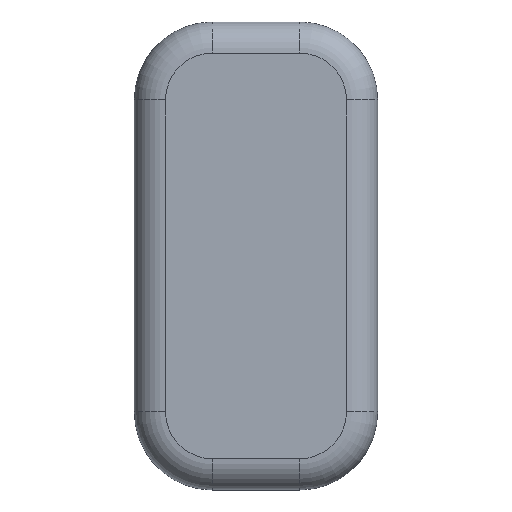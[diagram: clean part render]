
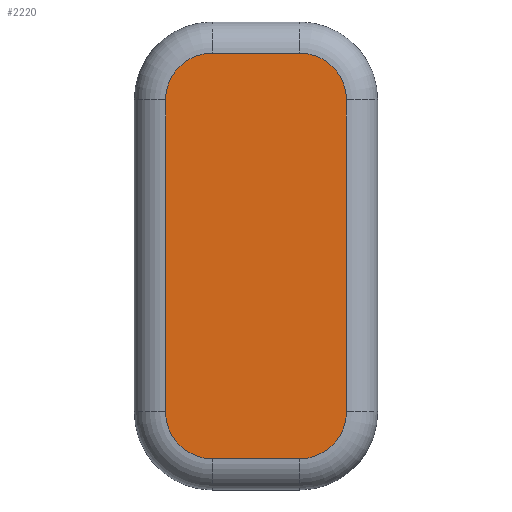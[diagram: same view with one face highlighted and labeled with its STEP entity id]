
A CAD part, top view. The second image highlights one B-rep face of the part: STEP entity #2220.
In plain terms, the highlighted planar face has unit normal (0, 0, 1).
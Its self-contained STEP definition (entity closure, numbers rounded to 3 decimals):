
#1301 = TOROIDAL_SURFACE('',#1302,15.,10.005);
#1302 = AXIS2_PLACEMENT_3D('',#1303,#1304,#1305);
#1303 = CARTESIAN_POINT('',(-14.,-50.,-10.));
#1304 = DIRECTION('',(0.,0.,1.));
#1305 = DIRECTION('',(-1.,0.,0.));
#1355 = CYLINDRICAL_SURFACE('',#1356,10.005);
#1356 = AXIS2_PLACEMENT_3D('',#1357,#1358,#1359);
#1357 = CARTESIAN_POINT('',(-14.,-65.,-10.));
#1358 = DIRECTION('',(1.,0.,0.));
#1359 = DIRECTION('',(0.,-1.,-0.));
#1410 = TOROIDAL_SURFACE('',#1411,15.,10.005);
#1411 = AXIS2_PLACEMENT_3D('',#1412,#1413,#1414);
#1412 = CARTESIAN_POINT('',(14.,-50.,-10.));
#1413 = DIRECTION('',(0.,0.,1.));
#1414 = DIRECTION('',(0.,-1.,0.));
#1464 = CYLINDRICAL_SURFACE('',#1465,10.005);
#1465 = AXIS2_PLACEMENT_3D('',#1466,#1467,#1468);
#1466 = CARTESIAN_POINT('',(29.,-50.,-10.));
#1467 = DIRECTION('',(0.,1.,0.));
#1468 = DIRECTION('',(1.,0.,-0.));
#1519 = TOROIDAL_SURFACE('',#1520,15.,10.005);
#1520 = AXIS2_PLACEMENT_3D('',#1521,#1522,#1523);
#1521 = CARTESIAN_POINT('',(14.,50.,-10.));
#1522 = DIRECTION('',(0.,0.,1.));
#1523 = DIRECTION('',(1.,0.,-0.));
#1593 = CYLINDRICAL_SURFACE('',#1594,10.005);
#1594 = AXIS2_PLACEMENT_3D('',#1595,#1596,#1597);
#1595 = CARTESIAN_POINT('',(14.,65.,-10.));
#1596 = DIRECTION('',(-1.,-0.,-0.));
#1597 = DIRECTION('',(-0.,1.,0.));
#1628 = TOROIDAL_SURFACE('',#1629,15.,10.005);
#1629 = AXIS2_PLACEMENT_3D('',#1630,#1631,#1632);
#1630 = CARTESIAN_POINT('',(-14.,50.,-10.));
#1631 = DIRECTION('',(0.,0.,1.));
#1632 = DIRECTION('',(0.,1.,-0.));
#1680 = CYLINDRICAL_SURFACE('',#1681,10.005);
#1681 = AXIS2_PLACEMENT_3D('',#1682,#1683,#1684);
#1682 = CARTESIAN_POINT('',(-29.,50.,-10.));
#1683 = DIRECTION('',(-0.,-1.,-0.));
#1684 = DIRECTION('',(-1.,0.,0.));
#1816 = VERTEX_POINT('',#1817);
#1817 = CARTESIAN_POINT('',(-29.,-50.,0.005));
#1841 = VERTEX_POINT('',#1842);
#1842 = CARTESIAN_POINT('',(-14.,-65.,0.005));
#1864 = EDGE_CURVE('',#1816,#1841,#1865,.T.);
#1865 = SURFACE_CURVE('',#1866,(#1871,#1878),.PCURVE_S1.);
#1866 = CIRCLE('',#1867,15.);
#1867 = AXIS2_PLACEMENT_3D('',#1868,#1869,#1870);
#1868 = CARTESIAN_POINT('',(-14.,-50.,0.005));
#1869 = DIRECTION('',(0.,0.,1.));
#1870 = DIRECTION('',(-1.,0.,0.));
#1871 = PCURVE('',#1301,#1872);
#1872 = DEFINITIONAL_REPRESENTATION('',(#1873),#1877);
#1873 = LINE('',#1874,#1875);
#1874 = CARTESIAN_POINT('',(0.,1.571));
#1875 = VECTOR('',#1876,1.);
#1876 = DIRECTION('',(1.,0.));
#1877 = ( GEOMETRIC_REPRESENTATION_CONTEXT(2) 
PARAMETRIC_REPRESENTATION_CONTEXT() REPRESENTATION_CONTEXT('2D SPACE',''
  ) );
#1878 = PCURVE('',#1879,#1884);
#1879 = PLANE('',#1880);
#1880 = AXIS2_PLACEMENT_3D('',#1881,#1882,#1883);
#1881 = CARTESIAN_POINT('',(0.,0.,0.005));
#1882 = DIRECTION('',(0.,0.,1.));
#1883 = DIRECTION('',(1.,0.,0.));
#1884 = DEFINITIONAL_REPRESENTATION('',(#1885),#1889);
#1885 = CIRCLE('',#1886,15.);
#1886 = AXIS2_PLACEMENT_2D('',#1887,#1888);
#1887 = CARTESIAN_POINT('',(-14.,-50.));
#1888 = DIRECTION('',(-1.,0.));
#1889 = ( GEOMETRIC_REPRESENTATION_CONTEXT(2) 
PARAMETRIC_REPRESENTATION_CONTEXT() REPRESENTATION_CONTEXT('2D SPACE',''
  ) );
#1895 = EDGE_CURVE('',#1841,#1896,#1898,.T.);
#1896 = VERTEX_POINT('',#1897);
#1897 = CARTESIAN_POINT('',(14.,-65.,0.005));
#1898 = SURFACE_CURVE('',#1899,(#1903,#1910),.PCURVE_S1.);
#1899 = LINE('',#1900,#1901);
#1900 = CARTESIAN_POINT('',(-14.,-65.,0.005));
#1901 = VECTOR('',#1902,1.);
#1902 = DIRECTION('',(1.,0.,0.));
#1903 = PCURVE('',#1355,#1904);
#1904 = DEFINITIONAL_REPRESENTATION('',(#1905),#1909);
#1905 = LINE('',#1906,#1907);
#1906 = CARTESIAN_POINT('',(-1.571,0.));
#1907 = VECTOR('',#1908,1.);
#1908 = DIRECTION('',(-0.,1.));
#1909 = ( GEOMETRIC_REPRESENTATION_CONTEXT(2) 
PARAMETRIC_REPRESENTATION_CONTEXT() REPRESENTATION_CONTEXT('2D SPACE',''
  ) );
#1910 = PCURVE('',#1879,#1911);
#1911 = DEFINITIONAL_REPRESENTATION('',(#1912),#1916);
#1912 = LINE('',#1913,#1914);
#1913 = CARTESIAN_POINT('',(-14.,-65.));
#1914 = VECTOR('',#1915,1.);
#1915 = DIRECTION('',(1.,0.));
#1916 = ( GEOMETRIC_REPRESENTATION_CONTEXT(2) 
PARAMETRIC_REPRESENTATION_CONTEXT() REPRESENTATION_CONTEXT('2D SPACE',''
  ) );
#1947 = VERTEX_POINT('',#1948);
#1948 = CARTESIAN_POINT('',(29.,-50.,0.005));
#1970 = EDGE_CURVE('',#1896,#1947,#1971,.T.);
#1971 = SURFACE_CURVE('',#1972,(#1977,#1984),.PCURVE_S1.);
#1972 = CIRCLE('',#1973,15.);
#1973 = AXIS2_PLACEMENT_3D('',#1974,#1975,#1976);
#1974 = CARTESIAN_POINT('',(14.,-50.,0.005));
#1975 = DIRECTION('',(0.,0.,1.));
#1976 = DIRECTION('',(0.,-1.,0.));
#1977 = PCURVE('',#1410,#1978);
#1978 = DEFINITIONAL_REPRESENTATION('',(#1979),#1983);
#1979 = LINE('',#1980,#1981);
#1980 = CARTESIAN_POINT('',(0.,1.571));
#1981 = VECTOR('',#1982,1.);
#1982 = DIRECTION('',(1.,0.));
#1983 = ( GEOMETRIC_REPRESENTATION_CONTEXT(2) 
PARAMETRIC_REPRESENTATION_CONTEXT() REPRESENTATION_CONTEXT('2D SPACE',''
  ) );
#1984 = PCURVE('',#1879,#1985);
#1985 = DEFINITIONAL_REPRESENTATION('',(#1986),#1990);
#1986 = CIRCLE('',#1987,15.);
#1987 = AXIS2_PLACEMENT_2D('',#1988,#1989);
#1988 = CARTESIAN_POINT('',(14.,-50.));
#1989 = DIRECTION('',(0.,-1.));
#1990 = ( GEOMETRIC_REPRESENTATION_CONTEXT(2) 
PARAMETRIC_REPRESENTATION_CONTEXT() REPRESENTATION_CONTEXT('2D SPACE',''
  ) );
#1996 = EDGE_CURVE('',#1947,#1997,#1999,.T.);
#1997 = VERTEX_POINT('',#1998);
#1998 = CARTESIAN_POINT('',(29.,50.,0.005));
#1999 = SURFACE_CURVE('',#2000,(#2004,#2011),.PCURVE_S1.);
#2000 = LINE('',#2001,#2002);
#2001 = CARTESIAN_POINT('',(29.,-50.,0.005));
#2002 = VECTOR('',#2003,1.);
#2003 = DIRECTION('',(0.,1.,0.));
#2004 = PCURVE('',#1464,#2005);
#2005 = DEFINITIONAL_REPRESENTATION('',(#2006),#2010);
#2006 = LINE('',#2007,#2008);
#2007 = CARTESIAN_POINT('',(-1.571,0.));
#2008 = VECTOR('',#2009,1.);
#2009 = DIRECTION('',(-0.,1.));
#2010 = ( GEOMETRIC_REPRESENTATION_CONTEXT(2) 
PARAMETRIC_REPRESENTATION_CONTEXT() REPRESENTATION_CONTEXT('2D SPACE',''
  ) );
#2011 = PCURVE('',#1879,#2012);
#2012 = DEFINITIONAL_REPRESENTATION('',(#2013),#2017);
#2013 = LINE('',#2014,#2015);
#2014 = CARTESIAN_POINT('',(29.,-50.));
#2015 = VECTOR('',#2016,1.);
#2016 = DIRECTION('',(0.,1.));
#2017 = ( GEOMETRIC_REPRESENTATION_CONTEXT(2) 
PARAMETRIC_REPRESENTATION_CONTEXT() REPRESENTATION_CONTEXT('2D SPACE',''
  ) );
#2048 = VERTEX_POINT('',#2049);
#2049 = CARTESIAN_POINT('',(14.,65.,0.005));
#2071 = EDGE_CURVE('',#1997,#2048,#2072,.T.);
#2072 = SURFACE_CURVE('',#2073,(#2078,#2085),.PCURVE_S1.);
#2073 = CIRCLE('',#2074,15.);
#2074 = AXIS2_PLACEMENT_3D('',#2075,#2076,#2077);
#2075 = CARTESIAN_POINT('',(14.,50.,0.005));
#2076 = DIRECTION('',(0.,0.,1.));
#2077 = DIRECTION('',(1.,0.,-0.));
#2078 = PCURVE('',#1519,#2079);
#2079 = DEFINITIONAL_REPRESENTATION('',(#2080),#2084);
#2080 = LINE('',#2081,#2082);
#2081 = CARTESIAN_POINT('',(0.,1.571));
#2082 = VECTOR('',#2083,1.);
#2083 = DIRECTION('',(1.,0.));
#2084 = ( GEOMETRIC_REPRESENTATION_CONTEXT(2) 
PARAMETRIC_REPRESENTATION_CONTEXT() REPRESENTATION_CONTEXT('2D SPACE',''
  ) );
#2085 = PCURVE('',#1879,#2086);
#2086 = DEFINITIONAL_REPRESENTATION('',(#2087),#2091);
#2087 = CIRCLE('',#2088,15.);
#2088 = AXIS2_PLACEMENT_2D('',#2089,#2090);
#2089 = CARTESIAN_POINT('',(14.,50.));
#2090 = DIRECTION('',(1.,0.));
#2091 = ( GEOMETRIC_REPRESENTATION_CONTEXT(2) 
PARAMETRIC_REPRESENTATION_CONTEXT() REPRESENTATION_CONTEXT('2D SPACE',''
  ) );
#2097 = EDGE_CURVE('',#2048,#2098,#2100,.T.);
#2098 = VERTEX_POINT('',#2099);
#2099 = CARTESIAN_POINT('',(-14.,65.,0.005));
#2100 = SURFACE_CURVE('',#2101,(#2105,#2112),.PCURVE_S1.);
#2101 = LINE('',#2102,#2103);
#2102 = CARTESIAN_POINT('',(14.,65.,0.005));
#2103 = VECTOR('',#2104,1.);
#2104 = DIRECTION('',(-1.,-0.,-0.));
#2105 = PCURVE('',#1593,#2106);
#2106 = DEFINITIONAL_REPRESENTATION('',(#2107),#2111);
#2107 = LINE('',#2108,#2109);
#2108 = CARTESIAN_POINT('',(-1.571,0.));
#2109 = VECTOR('',#2110,1.);
#2110 = DIRECTION('',(-0.,1.));
#2111 = ( GEOMETRIC_REPRESENTATION_CONTEXT(2) 
PARAMETRIC_REPRESENTATION_CONTEXT() REPRESENTATION_CONTEXT('2D SPACE',''
  ) );
#2112 = PCURVE('',#1879,#2113);
#2113 = DEFINITIONAL_REPRESENTATION('',(#2114),#2118);
#2114 = LINE('',#2115,#2116);
#2115 = CARTESIAN_POINT('',(14.,65.));
#2116 = VECTOR('',#2117,1.);
#2117 = DIRECTION('',(-1.,0.));
#2118 = ( GEOMETRIC_REPRESENTATION_CONTEXT(2) 
PARAMETRIC_REPRESENTATION_CONTEXT() REPRESENTATION_CONTEXT('2D SPACE',''
  ) );
#2149 = VERTEX_POINT('',#2150);
#2150 = CARTESIAN_POINT('',(-29.,50.,0.005));
#2172 = EDGE_CURVE('',#2098,#2149,#2173,.T.);
#2173 = SURFACE_CURVE('',#2174,(#2179,#2186),.PCURVE_S1.);
#2174 = CIRCLE('',#2175,15.);
#2175 = AXIS2_PLACEMENT_3D('',#2176,#2177,#2178);
#2176 = CARTESIAN_POINT('',(-14.,50.,0.005));
#2177 = DIRECTION('',(0.,0.,1.));
#2178 = DIRECTION('',(0.,1.,-0.));
#2179 = PCURVE('',#1628,#2180);
#2180 = DEFINITIONAL_REPRESENTATION('',(#2181),#2185);
#2181 = LINE('',#2182,#2183);
#2182 = CARTESIAN_POINT('',(0.,1.571));
#2183 = VECTOR('',#2184,1.);
#2184 = DIRECTION('',(1.,0.));
#2185 = ( GEOMETRIC_REPRESENTATION_CONTEXT(2) 
PARAMETRIC_REPRESENTATION_CONTEXT() REPRESENTATION_CONTEXT('2D SPACE',''
  ) );
#2186 = PCURVE('',#1879,#2187);
#2187 = DEFINITIONAL_REPRESENTATION('',(#2188),#2192);
#2188 = CIRCLE('',#2189,15.);
#2189 = AXIS2_PLACEMENT_2D('',#2190,#2191);
#2190 = CARTESIAN_POINT('',(-14.,50.));
#2191 = DIRECTION('',(0.,1.));
#2192 = ( GEOMETRIC_REPRESENTATION_CONTEXT(2) 
PARAMETRIC_REPRESENTATION_CONTEXT() REPRESENTATION_CONTEXT('2D SPACE',''
  ) );
#2198 = EDGE_CURVE('',#2149,#1816,#2199,.T.);
#2199 = SURFACE_CURVE('',#2200,(#2204,#2211),.PCURVE_S1.);
#2200 = LINE('',#2201,#2202);
#2201 = CARTESIAN_POINT('',(-29.,50.,0.005));
#2202 = VECTOR('',#2203,1.);
#2203 = DIRECTION('',(-0.,-1.,-0.));
#2204 = PCURVE('',#1680,#2205);
#2205 = DEFINITIONAL_REPRESENTATION('',(#2206),#2210);
#2206 = LINE('',#2207,#2208);
#2207 = CARTESIAN_POINT('',(-1.571,0.));
#2208 = VECTOR('',#2209,1.);
#2209 = DIRECTION('',(-0.,1.));
#2210 = ( GEOMETRIC_REPRESENTATION_CONTEXT(2) 
PARAMETRIC_REPRESENTATION_CONTEXT() REPRESENTATION_CONTEXT('2D SPACE',''
  ) );
#2211 = PCURVE('',#1879,#2212);
#2212 = DEFINITIONAL_REPRESENTATION('',(#2213),#2217);
#2213 = LINE('',#2214,#2215);
#2214 = CARTESIAN_POINT('',(-29.,50.));
#2215 = VECTOR('',#2216,1.);
#2216 = DIRECTION('',(0.,-1.));
#2217 = ( GEOMETRIC_REPRESENTATION_CONTEXT(2) 
PARAMETRIC_REPRESENTATION_CONTEXT() REPRESENTATION_CONTEXT('2D SPACE',''
  ) );
#2220 = ADVANCED_FACE('',(#2221),#1879,.T.);
#2221 = FACE_BOUND('',#2222,.T.);
#2222 = EDGE_LOOP('',(#2223,#2224,#2225,#2226,#2227,#2228,#2229,#2230));
#2223 = ORIENTED_EDGE('',*,*,#1864,.T.);
#2224 = ORIENTED_EDGE('',*,*,#1895,.T.);
#2225 = ORIENTED_EDGE('',*,*,#1970,.T.);
#2226 = ORIENTED_EDGE('',*,*,#1996,.T.);
#2227 = ORIENTED_EDGE('',*,*,#2071,.T.);
#2228 = ORIENTED_EDGE('',*,*,#2097,.T.);
#2229 = ORIENTED_EDGE('',*,*,#2172,.T.);
#2230 = ORIENTED_EDGE('',*,*,#2198,.T.);
